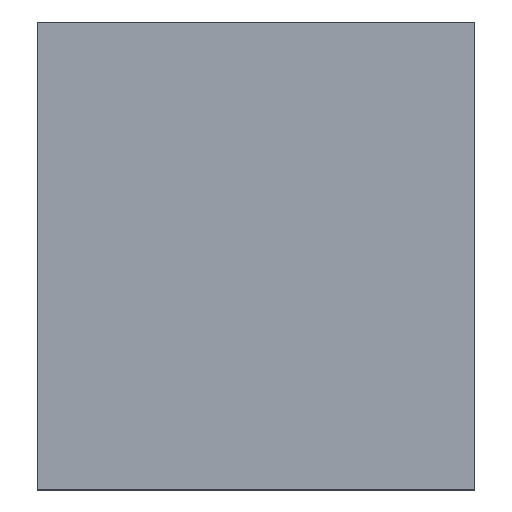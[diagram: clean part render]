
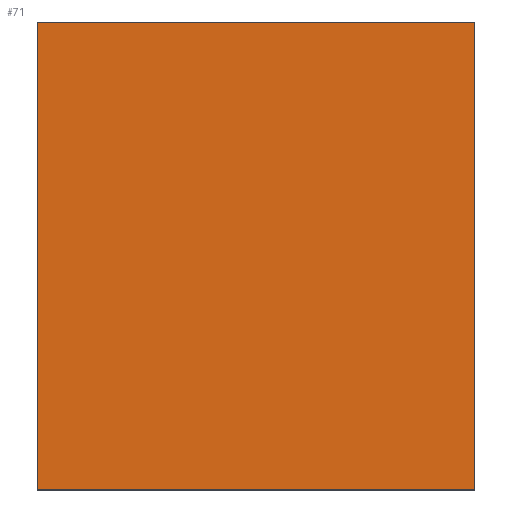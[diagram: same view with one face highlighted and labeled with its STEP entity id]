
A CAD part, top view. The second image highlights one B-rep face of the part: STEP entity #71.
In plain terms, the highlighted planar face has unit normal (0, 0, 1).
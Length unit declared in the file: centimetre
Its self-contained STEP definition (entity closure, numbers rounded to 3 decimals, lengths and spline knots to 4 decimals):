
#71=ADVANCED_FACE($,(#143),#815,.T.);
#143=FACE_OUTER_BOUND($,#215,.T.);
#215=EDGE_LOOP($,(#392,#393,#394,#395));
#392=ORIENTED_EDGE($,*,*,#607,.F.);
#393=ORIENTED_EDGE($,*,*,#606,.F.);
#394=ORIENTED_EDGE($,*,*,#605,.F.);
#395=ORIENTED_EDGE($,*,*,#604,.F.);
#604=EDGE_CURVE($,#728,#729,#916,.T.);
#605=EDGE_CURVE($,#729,#730,#917,.T.);
#606=EDGE_CURVE($,#730,#731,#918,.T.);
#607=EDGE_CURVE($,#731,#728,#919,.T.);
#728=VERTEX_POINT($,#1458);
#729=VERTEX_POINT($,#1459);
#730=VERTEX_POINT($,#1460);
#731=VERTEX_POINT($,#1461);
#815=PLANE($,#1119);
#916=B_SPLINE_CURVE_WITH_KNOTS($,1,(#1432,#1433),.UNSPECIFIED.,.F.,.F.,(2,
2),(0.,48.),.UNSPECIFIED.);
#917=B_SPLINE_CURVE_WITH_KNOTS($,1,(#1434,#1435),.UNSPECIFIED.,.F.,.F.,(2,
2),(0.,45.),.UNSPECIFIED.);
#918=B_SPLINE_CURVE_WITH_KNOTS($,1,(#1436,#1437),.UNSPECIFIED.,.F.,.F.,(2,
2),(0.,48.),.UNSPECIFIED.);
#919=B_SPLINE_CURVE_WITH_KNOTS($,1,(#1438,#1439),.UNSPECIFIED.,.F.,.F.,(2,
2),(0.,45.),.UNSPECIFIED.);
#1119=AXIS2_PLACEMENT_3D($,#1453,#1194,$);
#1194=DIRECTION($,(0.,0.,1.));
#1432=CARTESIAN_POINT($,(0.,0.,54.5));
#1433=CARTESIAN_POINT($,(0.,48.,54.5));
#1434=CARTESIAN_POINT($,(0.,48.,54.5));
#1435=CARTESIAN_POINT($,(45.,48.,54.5));
#1436=CARTESIAN_POINT($,(45.,48.,54.5));
#1437=CARTESIAN_POINT($,(45.,0.,54.5));
#1438=CARTESIAN_POINT($,(45.,0.,54.5));
#1439=CARTESIAN_POINT($,(0.,0.,54.5));
#1453=CARTESIAN_POINT($,(0.,0.,54.5));
#1458=CARTESIAN_POINT($,(0.,0.,54.5));
#1459=CARTESIAN_POINT($,(0.,48.,54.5));
#1460=CARTESIAN_POINT($,(45.,48.,54.5));
#1461=CARTESIAN_POINT($,(45.,0.,54.5));
